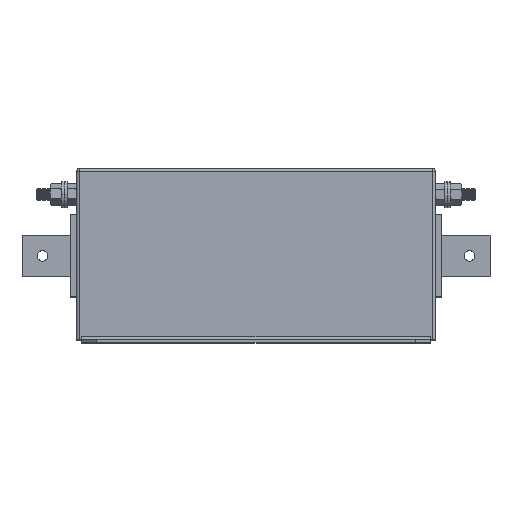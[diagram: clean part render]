
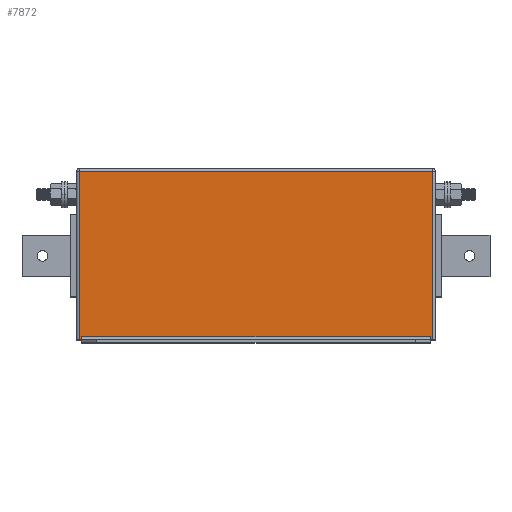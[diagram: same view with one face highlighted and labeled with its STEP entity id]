
A CAD part, top view. The second image highlights one B-rep face of the part: STEP entity #7872.
In plain terms, the highlighted planar face has unit normal (0, 0, 1).
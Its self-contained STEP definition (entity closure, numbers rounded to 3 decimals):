
#67 = DIRECTION ( 'NONE',  ( 0., 1., 0. ) ) ;
#341 = LINE ( 'NONE', #3866, #5278 ) ;
#401 = LINE ( 'NONE', #3897, #4804 ) ;
#426 = LINE ( 'NONE', #3192, #1841 ) ;
#860 = CARTESIAN_POINT ( 'NONE',  ( 347., 167., 0. ) ) ;
#867 = LINE ( 'NONE', #1963, #7328 ) ;
#1010 = DIRECTION ( 'NONE',  ( 0., 0., -1. ) ) ;
#1021 = VERTEX_POINT ( 'NONE', #2974 ) ;
#1033 = VERTEX_POINT ( 'NONE', #5046 ) ;
#1166 = EDGE_CURVE ( 'NONE', #4619, #1021, #4893, .T. ) ;
#1468 = VECTOR ( 'NONE', #8667, 1000. ) ;
#1491 = VECTOR ( 'NONE', #67, 1000. ) ;
#1841 = VECTOR ( 'NONE', #3220, 1000. ) ;
#1963 = CARTESIAN_POINT ( 'NONE',  ( 5., -3., 0. ) ) ;
#2054 = VERTEX_POINT ( 'NONE', #7989 ) ;
#2204 = DIRECTION ( 'NONE',  ( 0., -1., 0. ) ) ;
#2388 = PLANE ( 'NONE',  #3094 ) ;
#2518 = DIRECTION ( 'NONE',  ( -1., 0., 0. ) ) ;
#2883 = DIRECTION ( 'NONE',  ( 0., 1., 0. ) ) ;
#2974 = CARTESIAN_POINT ( 'NONE',  ( 5., 0., 0. ) ) ;
#3058 = ORIENTED_EDGE ( 'NONE', *, *, #7515, .T. ) ;
#3094 = AXIS2_PLACEMENT_3D ( 'NONE', #4347, #1010, #6516 ) ;
#3115 = DIRECTION ( 'NONE',  ( 0., -1., 0. ) ) ;
#3192 = CARTESIAN_POINT ( 'NONE',  ( 345., 3., 0. ) ) ;
#3220 = DIRECTION ( 'NONE',  ( 1., 0., 0. ) ) ;
#3388 = LINE ( 'NONE', #4142, #3720 ) ;
#3417 = VERTEX_POINT ( 'NONE', #7038 ) ;
#3424 = VERTEX_POINT ( 'NONE', #3623 ) ;
#3528 = VERTEX_POINT ( 'NONE', #7167 ) ;
#3555 = CARTESIAN_POINT ( 'NONE',  ( 345., -3., 0. ) ) ;
#3599 = EDGE_CURVE ( 'NONE', #3424, #4619, #341, .T. ) ;
#3623 = CARTESIAN_POINT ( 'NONE',  ( 3., 164., 0. ) ) ;
#3713 = ORIENTED_EDGE ( 'NONE', *, *, #4234, .T. ) ;
#3720 = VECTOR ( 'NONE', #7647, 1000. ) ;
#3847 = CARTESIAN_POINT ( 'NONE',  ( 0., 0., 0. ) ) ;
#3866 = CARTESIAN_POINT ( 'NONE',  ( 3., 167., 0. ) ) ;
#3897 = CARTESIAN_POINT ( 'NONE',  ( 0., 164., 0. ) ) ;
#3924 = EDGE_CURVE ( 'NONE', #1021, #3528, #867, .T. ) ;
#3954 = LINE ( 'NONE', #3555, #7410 ) ;
#4142 = CARTESIAN_POINT ( 'NONE',  ( 0., 0., 0. ) ) ;
#4234 = EDGE_CURVE ( 'NONE', #3528, #2054, #426, .T. ) ;
#4333 = CARTESIAN_POINT ( 'NONE',  ( 3., 0., 0. ) ) ;
#4347 = CARTESIAN_POINT ( 'NONE',  ( 0., 167., 0. ) ) ;
#4471 = ORIENTED_EDGE ( 'NONE', *, *, #3924, .T. ) ;
#4619 = VERTEX_POINT ( 'NONE', #4333 ) ;
#4687 = ORIENTED_EDGE ( 'NONE', *, *, #3599, .T. ) ;
#4793 = VERTEX_POINT ( 'NONE', #5860 ) ;
#4804 = VECTOR ( 'NONE', #2518, 1000. ) ;
#4893 = LINE ( 'NONE', #3847, #1468 ) ;
#5046 = CARTESIAN_POINT ( 'NONE',  ( 347., 0., 0. ) ) ;
#5095 = ORIENTED_EDGE ( 'NONE', *, *, #7728, .T. ) ;
#5278 = VECTOR ( 'NONE', #3115, 1000. ) ;
#5631 = EDGE_LOOP ( 'NONE', ( #3713, #7382, #6094, #5095, #3058, #4687, #5764, #4471 ) ) ;
#5721 = EDGE_CURVE ( 'NONE', #4793, #1033, #3388, .T. ) ;
#5764 = ORIENTED_EDGE ( 'NONE', *, *, #1166, .T. ) ;
#5860 = CARTESIAN_POINT ( 'NONE',  ( 345., 0., 0. ) ) ;
#6094 = ORIENTED_EDGE ( 'NONE', *, *, #5721, .T. ) ;
#6516 = DIRECTION ( 'NONE',  ( -1., 0., 0. ) ) ;
#6546 = FACE_OUTER_BOUND ( 'NONE', #5631, .T. ) ;
#6747 = LINE ( 'NONE', #860, #1491 ) ;
#7038 = CARTESIAN_POINT ( 'NONE',  ( 347., 164., 0. ) ) ;
#7167 = CARTESIAN_POINT ( 'NONE',  ( 5., 3., 0. ) ) ;
#7328 = VECTOR ( 'NONE', #2883, 1000. ) ;
#7382 = ORIENTED_EDGE ( 'NONE', *, *, #7826, .T. ) ;
#7410 = VECTOR ( 'NONE', #2204, 1000. ) ;
#7515 = EDGE_CURVE ( 'NONE', #3417, #3424, #401, .T. ) ;
#7647 = DIRECTION ( 'NONE',  ( 1., 0., 0. ) ) ;
#7728 = EDGE_CURVE ( 'NONE', #1033, #3417, #6747, .T. ) ;
#7826 = EDGE_CURVE ( 'NONE', #2054, #4793, #3954, .T. ) ;
#7872 = ADVANCED_FACE ( 'NONE', ( #6546 ), #2388, .F. ) ;
#7989 = CARTESIAN_POINT ( 'NONE',  ( 345., 3., 0. ) ) ;
#8667 = DIRECTION ( 'NONE',  ( 1., 0., 0. ) ) ;
